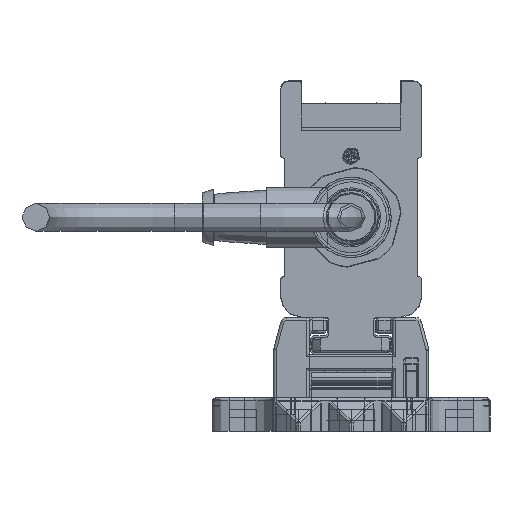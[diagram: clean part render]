
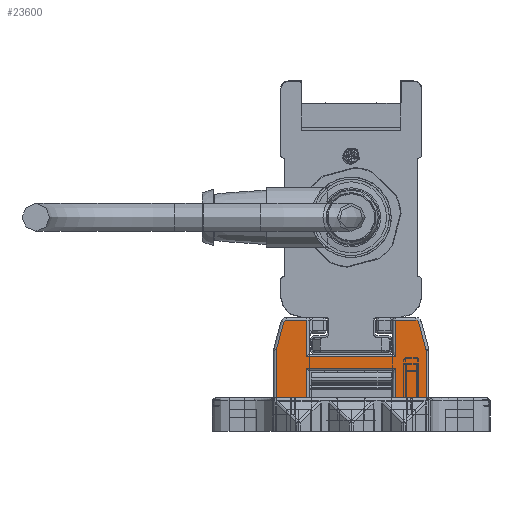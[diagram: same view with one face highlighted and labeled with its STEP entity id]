
A CAD part, left-side view. The second image highlights one B-rep face of the part: STEP entity #23600.
In plain terms, the highlighted planar face has unit normal (-1, 0, 0).
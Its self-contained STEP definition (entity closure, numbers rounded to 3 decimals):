
#23600=ADVANCED_FACE('', (#23610), #23620, .T.);
#189050=AXIS2_PLACEMENT_3D('Ax2Pl3d', #189060, #189070, #189080);
#189290=AXIS2_PLACEMENT_3D('Ax2Pl3d', #189300, #189310, #189320);
#194170=AXIS2_PLACEMENT_3D('Ax2Pl3d', #194180, #194190, #194200);
#199250=AXIS2_PLACEMENT_3D('Ax2Pl3d', #199260, #199270, #199280);
#208930=AXIS2_PLACEMENT_3D('Ax2Pl3d', #208940, #208950, #208960);
#844600=CARTESIAN_POINT('', (-747.669,-6646.345,
331.37));
#189060=CARTESIAN_POINT('HicPkt', (-747.669,-6645.379,
331.111));
#844610=CARTESIAN_POINT('', (-747.669,-6646.379,331.111)
);
#844620=CARTESIAN_POINT('', (-747.669,-6645.037,
336.255));
#844640=CARTESIAN_POINT('', (-747.669,-6645.037,
336.255));
#844670=CARTESIAN_POINT('', (-747.669,-6644.554,
336.625));
#189300=CARTESIAN_POINT('HicPkt', (-747.669,-6644.554,
336.125));
#844890=CARTESIAN_POINT('', (-747.669,-6646.379,322.625)
);
#844900=CARTESIAN_POINT('', (-747.669,-6640.881,322.625)
);
#844910=CARTESIAN_POINT('', (-747.669,-6640.881,322.625)
);
#844990=CARTESIAN_POINT('', (-747.669,-6624.881,322.625)
);
#845000=CARTESIAN_POINT('', (-747.669,-6619.383,322.625)
);
#845010=CARTESIAN_POINT('', (-747.669,-6619.383,322.625)
);
#194180=CARTESIAN_POINT('HicPkt', (-747.669,-6621.209,
336.125));
#847480=CARTESIAN_POINT('', (-747.669,-6620.726,
336.255));
#847490=CARTESIAN_POINT('', (-747.669,-6621.209,
336.625));
#847500=CARTESIAN_POINT('', (-747.669,-6640.881,
330.025));
#847510=CARTESIAN_POINT('', (-747.669,-6624.881,
330.025));
#847520=CARTESIAN_POINT('', (-747.669,-6640.881,
330.025));
#847680=CARTESIAN_POINT('', (-747.669,-6640.881,
328.005));
#847690=CARTESIAN_POINT('', (-747.669,-6624.881,
328.005));
#847700=CARTESIAN_POINT('', (-747.669,-6624.881,
328.005));
#847710=CARTESIAN_POINT('', (-747.669,-6640.881,
328.005));
#847730=CARTESIAN_POINT('', (-747.669,-6624.881,322.625)
);
#847740=CARTESIAN_POINT('', (-747.669,-6624.881,
330.025));
#847750=CARTESIAN_POINT('', (-747.669,-6624.881,
336.625));
#848600=CARTESIAN_POINT('', (-747.669,-6624.881,
336.625));
#848610=CARTESIAN_POINT('', (-747.669,-6620.726,
336.255));
#848620=CARTESIAN_POINT('', (-747.669,-6619.417,
331.37));
#848810=CARTESIAN_POINT('', (-747.669,-6619.383,331.111)
);
#848820=CARTESIAN_POINT('', (-747.669,-6619.383,331.111)
);
#199260=CARTESIAN_POINT('HicPkt', (-747.669,-6620.383,
331.111));
#849630=CARTESIAN_POINT('', (-747.669,-6646.379,331.111)
);
#208940=CARTESIAN_POINT('HicPkt', (-747.669,-6644.554,
336.625));
#851430=CARTESIAN_POINT('', (-747.669,-6640.881,
336.625));
#851440=CARTESIAN_POINT('', (-747.669,-6640.881,
336.625));
#851450=CARTESIAN_POINT('', (-747.669,-6640.881,
336.625));
#981330=CIRCLE('Circle', #189050, 1.);
#981370=CIRCLE('Circle', #189290, 0.5);
#981950=CIRCLE('Circle', #194170, 0.5);
#982480=CIRCLE('Circle', #199250, 1.);
#189070=DIRECTION('Axis', (-1.,0.,
0.));
#189080=DIRECTION('RefDirection', (0.,
0.,-1.));
#1367870=DIRECTION('', (0.,0.259,
0.966));
#189310=DIRECTION('Axis', (-1.,0.,
0.));
#189320=DIRECTION('RefDirection', (0.,
0.,-1.));
#1367980=DIRECTION('', (0.,1.,0.));
#1368020=DIRECTION('', (0.,1.,0.));
#194190=DIRECTION('Axis', (1.,0.,
0.));
#194200=DIRECTION('RefDirection', (0.,
0.,-1.));
#1369210=DIRECTION('', (0.,-1.,0.));
#1369310=DIRECTION('', (0.,1.,0.));
#1369320=DIRECTION('', (0.,0.,1.));
#1369340=DIRECTION('', (0.,0.,-1.));
#1369350=DIRECTION('', (0.,0.,-1.));
#1369780=DIRECTION('', (0.,-1.,0.))
;
#1369790=DIRECTION('', (0.,-0.259,0.966));
#1369880=DIRECTION('', (0.,0.,1.));
#199270=DIRECTION('Axis', (1.,0.,
0.));
#199280=DIRECTION('RefDirection', (0.,
0.,-1.));
#1370250=DIRECTION('', (0.,0.,1.));
#208950=DIRECTION('Axis', (-1.,0.,
0.));
#208960=DIRECTION('RefDirection', (0.,
0.,-1.));
#1371090=DIRECTION('', (0.,1.,0.));
#1371100=DIRECTION('', (0.,0.,1.));
#1456860=EDGE_CURVE('', #1456870, #1456850, #981330, .T.);
#1456920=EDGE_CURVE('', #1456850, #1456900, #1456930, .T.);
#1456990=EDGE_CURVE('', #1456900, #1456980, #981370, .T.);
#1457440=EDGE_CURVE('', #1457430, #1457450, #1457460, .T.);
#1457600=EDGE_CURVE('', #1457590, #1457610, #1457620, .T.);
#1461960=EDGE_CURVE('', #1461970, #1461980, #981950, .T.);
#1462010=EDGE_CURVE('', #1462020, #1462030, #1462040, .T.);
#1462380=EDGE_CURVE('', #1462360, #1462390, #1462400, .T.);
#1462430=EDGE_CURVE('', #1457450, #1462360, #1462440, .T.);
#1462470=EDGE_CURVE('', #1462390, #1457590, #1462480, .T.);
#1462490=EDGE_CURVE('', #1462500, #1462020, #1462510, .T.);
#1464330=EDGE_CURVE('', #1461980, #1462500, #1464340, .T.);
#1464400=EDGE_CURVE('', #1464410, #1461970, #1464420, .T.);
#1464840=EDGE_CURVE('', #1457610, #1464850, #1464860, .T.);
#1464880=EDGE_CURVE('', #1464850, #1464410, #982480, .T.);
#1466590=EDGE_CURVE('', #1457430, #1456870, #1466600, .T.);
#1470400=EDGE_CURVE('', #1456980, #1470410, #1470420, .T.);
#1470430=EDGE_CURVE('', #1462030, #1470410, #1470440, .T.);
#1750440=EDGE_LOOP('Edge_loop', (#1750450,#1750460,#1750470,#1750480,
#1750490,#1750500,#1750510,#1750520,#1750530,#1750540,#1750550,
#1750560,#1750570,#1750580,#1750590,#1750600,#1750610,#1750620));
#23610=FACE_OUTER_BOUND('Face_outer_bound', #1750440, .T.);
#1456930=LINE('Line', #844640, #2017940);
#1457460=LINE('Line', #844900, #2018050);
#1457620=LINE('Line', #845000, #2018090);
#1462040=LINE('Line', #847500, #2019280);
#1462400=LINE('Line', #847690, #2019380);
#1462440=LINE('Line', #847710, #2019390);
#1462480=LINE('Line', #847730, #2019410);
#1462510=LINE('Line', #847740, #2019420);
#1464340=LINE('Line', #848600, #2019850);
#1464420=LINE('Line', #848610, #2019860);
#1464860=LINE('Line', #848810, #2019950);
#1466600=LINE('Line', #849630, #2020320);
#1470420=LINE('Line', #851430, #2021160);
#1470440=LINE('Line', #851450, #2021170);
#1750450=ORIENTED_EDGE('', *, *, #1470400, .T.);
#1750460=ORIENTED_EDGE('', *, *, #1470430, .F.);
#1750470=ORIENTED_EDGE('', *, *, #1462010, .F.);
#1750480=ORIENTED_EDGE('', *, *, #1462490, .F.);
#1750490=ORIENTED_EDGE('', *, *, #1464330, .F.);
#1750500=ORIENTED_EDGE('', *, *, #1461960, .F.);
#1750510=ORIENTED_EDGE('', *, *, #1464400, .F.);
#1750520=ORIENTED_EDGE('', *, *, #1464880, .F.);
#1750530=ORIENTED_EDGE('', *, *, #1464840, .F.);
#1750540=ORIENTED_EDGE('', *, *, #1457600, .F.);
#1750550=ORIENTED_EDGE('', *, *, #1462470, .F.);
#1750560=ORIENTED_EDGE('', *, *, #1462380, .F.);
#1750570=ORIENTED_EDGE('', *, *, #1462430, .F.);
#1750580=ORIENTED_EDGE('', *, *, #1457440, .F.);
#1750590=ORIENTED_EDGE('', *, *, #1466590, .T.);
#1750600=ORIENTED_EDGE('', *, *, #1456860, .T.);
#1750610=ORIENTED_EDGE('', *, *, #1456920, .T.);
#1750620=ORIENTED_EDGE('', *, *, #1456990, .T.);
#23620=PLANE('Plane', #208930);
#2017940=VECTOR('', #1367870, 5.057);
#2018050=VECTOR('', #1367980, 5.498);
#2018090=VECTOR('', #1368020, 5.498);
#2019280=VECTOR('', #1369210, 16.);
#2019380=VECTOR('', #1369310, 16.);
#2019390=VECTOR('', #1369320, 5.38);
#2019410=VECTOR('', #1369340, 5.38);
#2019420=VECTOR('', #1369350, 6.6);
#2019850=VECTOR('', #1369780, 3.672);
#2019860=VECTOR('', #1369790, 5.057);
#2019950=VECTOR('', #1369880, 8.486);
#2020320=VECTOR('', #1370250, 8.486);
#2021160=VECTOR('', #1371090, 3.672);
#2021170=VECTOR('', #1371100, 6.6);
#1456850=VERTEX_POINT('', #844600);
#1456870=VERTEX_POINT('', #844610);
#1456900=VERTEX_POINT('', #844620);
#1456980=VERTEX_POINT('', #844670);
#1457430=VERTEX_POINT('', #844890);
#1457450=VERTEX_POINT('', #844910);
#1457590=VERTEX_POINT('', #844990);
#1457610=VERTEX_POINT('', #845010);
#1461970=VERTEX_POINT('', #847480);
#1461980=VERTEX_POINT('', #847490);
#1462020=VERTEX_POINT('', #847510);
#1462030=VERTEX_POINT('', #847520);
#1462360=VERTEX_POINT('', #847680);
#1462390=VERTEX_POINT('', #847700);
#1462500=VERTEX_POINT('', #847750);
#1464410=VERTEX_POINT('', #848620);
#1464850=VERTEX_POINT('', #848820);
#1470410=VERTEX_POINT('', #851440);
